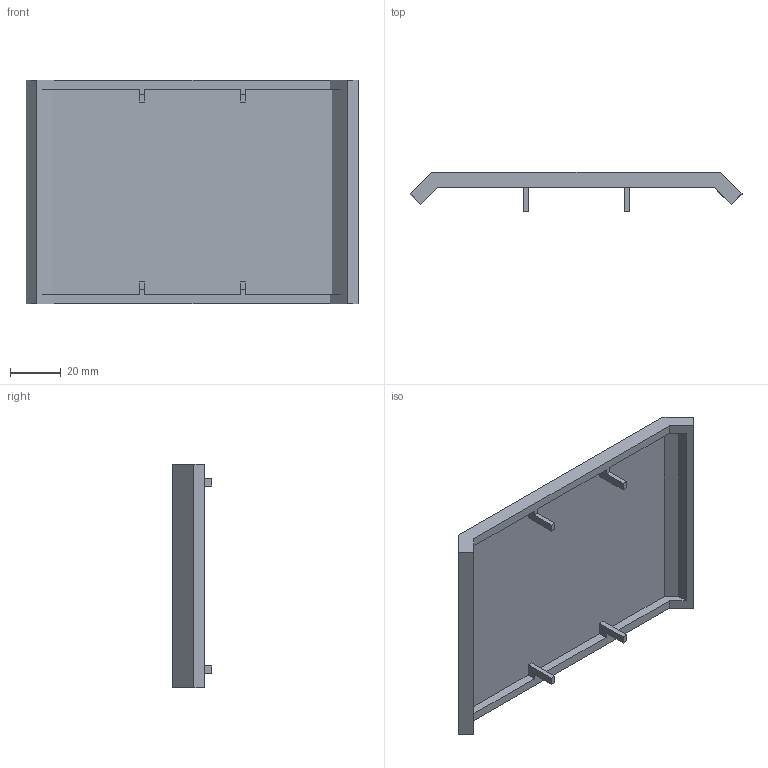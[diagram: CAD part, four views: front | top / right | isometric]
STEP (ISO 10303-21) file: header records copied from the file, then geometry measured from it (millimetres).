
FILE_DESCRIPTION (( 'STEP AP203' ), '1' );
FILE_NAME ('1075cap.STEP', '2016-04-09T14:18:59', ( '' ), ( '' ), 'SwSTEP 2.0', 'SolidWorks 2014', '' );
FILE_SCHEMA (( 'CONFIG_CONTROL_DESIGN' ));
Length unit declared in the file: millimetre
Products named in the file (1): 1075cap
Bounding box: 130.97 x 15.5 x 88 mm (x, y, z)
Volume: 36492.4 mm3; surface area: 28064.5 mm2
Topology: 1 solids, 1 shells, 42 faces, 120 edges, 80 vertices
Faces by surface type: plane 42
Entity records: 1421 total; most frequent: CARTESIAN_POINT 243, ORIENTED_EDGE 240, DIRECTION 206, EDGE_CURVE 120, VECTOR 120, LINE 120, VERTEX_POINT 80, AXIS2_PLACEMENT_3D 43
